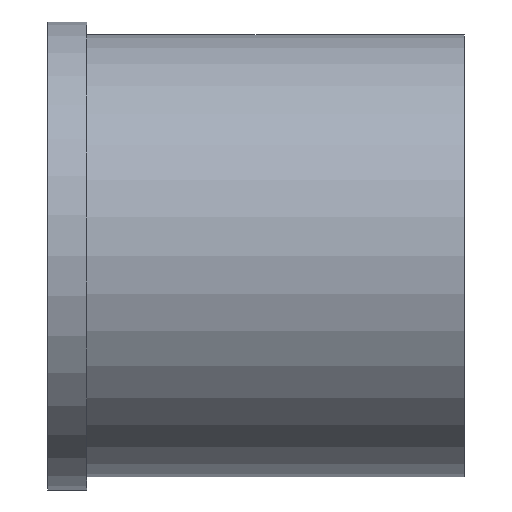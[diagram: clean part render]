
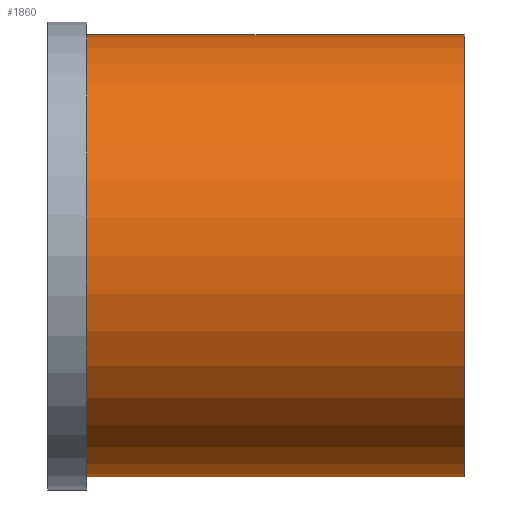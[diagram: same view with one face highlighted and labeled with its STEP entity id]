
A CAD part, top view. The second image highlights one B-rep face of the part: STEP entity #1860.
In plain terms, the highlighted cylindrical face has radius 17 mm (diameter 34 mm), a partial arc.
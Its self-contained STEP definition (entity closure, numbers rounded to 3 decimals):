
#1060=CARTESIAN_POINT('',(-163.627,292.117,0.));
#1070=DIRECTION('',(1.,0.,0.));
#1080=DIRECTION('',(0.,1.,0.));
#1090=AXIS2_PLACEMENT_3D('',#1060,#1070,#1080);
#1100=CIRCLE('',#1090,17.);
#1110=CARTESIAN_POINT('',(-163.627,309.117,0.));
#1120=VERTEX_POINT('',#1110);
#1130=CARTESIAN_POINT('',(-163.627,275.117,0.));
#1140=VERTEX_POINT('',#1130);
#1150=EDGE_CURVE('',#1120,#1140,#1100,.T.);
#1320=CARTESIAN_POINT('',(-178.127,275.117,0.));
#1330=DIRECTION('',(1.,0.,0.));
#1340=VECTOR('',#1330,1.);
#1350=LINE('',#1320,#1340);
#1360=CARTESIAN_POINT('',(-192.627,275.117,0.));
#1370=VERTEX_POINT('',#1360);
#1380=EDGE_CURVE('',#1370,#1140,#1350,.T.);
#1410=CARTESIAN_POINT('',(-178.127,309.117,0.));
#1420=DIRECTION('',(1.,0.,0.));
#1430=VECTOR('',#1420,1.);
#1440=LINE('',#1410,#1430);
#1450=CARTESIAN_POINT('',(-192.627,309.117,0.));
#1460=VERTEX_POINT('',#1450);
#1470=EDGE_CURVE('',#1460,#1120,#1440,.T.);
#1490=CARTESIAN_POINT('',(-192.627,292.117,0.));
#1500=DIRECTION('',(1.,0.,0.));
#1510=DIRECTION('',(0.,1.,0.));
#1520=AXIS2_PLACEMENT_3D('',#1490,#1500,#1510);
#1530=CIRCLE('',#1520,17.);
#1690=EDGE_CURVE('',#1460,#1370,#1530,.T.);
#1750=CARTESIAN_POINT('',(-178.127,292.117,0.));
#1760=DIRECTION('',(1.,0.,0.));
#1770=DIRECTION('',(0.,-1.,0.));
#1780=AXIS2_PLACEMENT_3D('',#1750,#1760,#1770);
#1790=CYLINDRICAL_SURFACE('',#1780,17.);
#1800=ORIENTED_EDGE('',*,*,#1690,.T.);
#1810=ORIENTED_EDGE('',*,*,#1470,.F.);
#1820=ORIENTED_EDGE('',*,*,#1150,.F.);
#1830=ORIENTED_EDGE('',*,*,#1380,.T.);
#1840=EDGE_LOOP('',(#1830,#1820,#1810,#1800));
#1850=FACE_OUTER_BOUND('',#1840,.T.);
#1860=ADVANCED_FACE('',(#1850),#1790,.T.);
